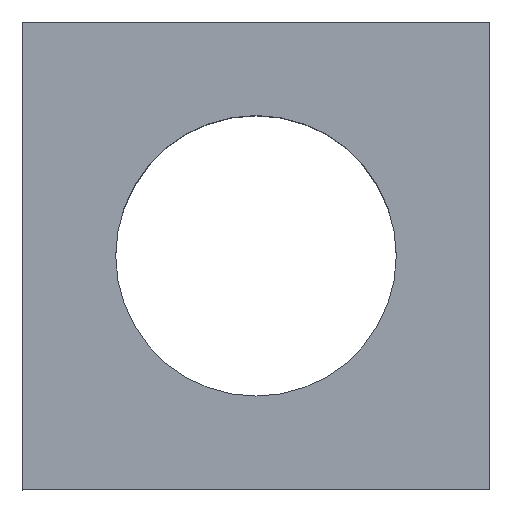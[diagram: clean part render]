
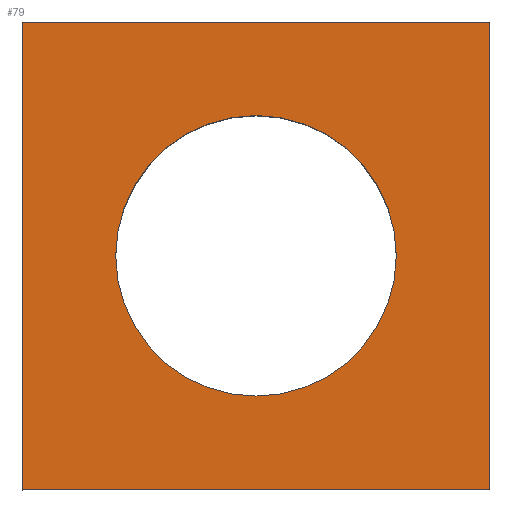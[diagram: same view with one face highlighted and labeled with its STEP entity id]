
A CAD part, top view. The second image highlights one B-rep face of the part: STEP entity #79.
In plain terms, the highlighted free-form (B-spline) face has degree [1, 1] with [2, 2] control points.
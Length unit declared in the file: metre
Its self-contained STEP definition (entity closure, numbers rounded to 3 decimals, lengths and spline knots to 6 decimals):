
#79 = ADVANCED_FACE( '', ( #93, #94 ), #95, .T. );
#93 = FACE_BOUND( '', #139, .T. );
#94 = FACE_OUTER_BOUND( '', #140, .T. );
#95 = B_SPLINE_SURFACE_WITH_KNOTS( '', 1, 1, ( ( #141, #142 ), ( #143, #144 ) ), .UNSPECIFIED., .F., .F., .F., ( 2, 2 ), ( 2, 2 ), ( 0., 1. ), ( 0., 1. ), .UNSPECIFIED. );
#139 = EDGE_LOOP( '', ( #170 ) );
#140 = EDGE_LOOP( '', ( #171, #172, #173, #174 ) );
#141 = CARTESIAN_POINT( '', ( 11.017195, 6.923846, 0.279535 ) );
#142 = CARTESIAN_POINT( '', ( 11.017195, 6.934846, 0.279535 ) );
#143 = CARTESIAN_POINT( '', ( 11.028195, 6.923846, 0.279535 ) );
#144 = CARTESIAN_POINT( '', ( 11.028195, 6.934846, 0.279535 ) );
#170 = ORIENTED_EDGE( '', *, *, #187, .F. );
#171 = ORIENTED_EDGE( '', *, *, #194, .T. );
#172 = ORIENTED_EDGE( '', *, *, #195, .T. );
#173 = ORIENTED_EDGE( '', *, *, #183, .T. );
#174 = ORIENTED_EDGE( '', *, *, #189, .T. );
#183 = EDGE_CURVE( '', #197, #198, #199, .T. );
#187 = EDGE_CURVE( '', #205, #205, #206, .T. );
#189 = EDGE_CURVE( '', #198, #209, #210, .T. );
#194 = EDGE_CURVE( '', #209, #217, #218, .T. );
#195 = EDGE_CURVE( '', #217, #197, #219, .T. );
#197 = VERTEX_POINT( '', #221 );
#198 = VERTEX_POINT( '', #222 );
#199 = LINE( '', #223, #224 );
#205 = VERTEX_POINT( '', #233 );
#206 = CIRCLE( '', #234, 0.003 );
#209 = VERTEX_POINT( '', #237 );
#210 = LINE( '', #238, #239 );
#217 = VERTEX_POINT( '', #250 );
#218 = LINE( '', #251, #252 );
#219 = LINE( '', #253, #254 );
#221 = CARTESIAN_POINT( '', ( 11.017695, 6.924346, 0.279535 ) );
#222 = CARTESIAN_POINT( '', ( 11.027695, 6.924346, 0.279535 ) );
#223 = CARTESIAN_POINT( '', ( 11.022695, 6.924346, 0.279535 ) );
#224 = VECTOR( '', #257, 1. );
#233 = CARTESIAN_POINT( '', ( 11.025695, 6.929346, 0.279535 ) );
#234 = AXIS2_PLACEMENT_3D( '', #261, #262, #263 );
#237 = CARTESIAN_POINT( '', ( 11.027695, 6.934346, 0.279535 ) );
#238 = CARTESIAN_POINT( '', ( 11.027695, 6.929346, 0.279535 ) );
#239 = VECTOR( '', #267, 1. );
#250 = CARTESIAN_POINT( '', ( 11.017695, 6.934346, 0.279535 ) );
#251 = CARTESIAN_POINT( '', ( 11.022695, 6.934346, 0.279535 ) );
#252 = VECTOR( '', #272, 1. );
#253 = CARTESIAN_POINT( '', ( 11.017695, 6.929346, 0.279535 ) );
#254 = VECTOR( '', #273, 1. );
#257 = DIRECTION( '', ( 1., 0., 0. ) );
#261 = CARTESIAN_POINT( '', ( 11.022695, 6.929346, 0.279535 ) );
#262 = DIRECTION( '', ( 0., 0., 1. ) );
#263 = DIRECTION( '', ( 0., -1., 0. ) );
#267 = DIRECTION( '', ( 0., 1., 0. ) );
#272 = DIRECTION( '', ( -1., 0., 0. ) );
#273 = DIRECTION( '', ( 0., -1., 0. ) );
